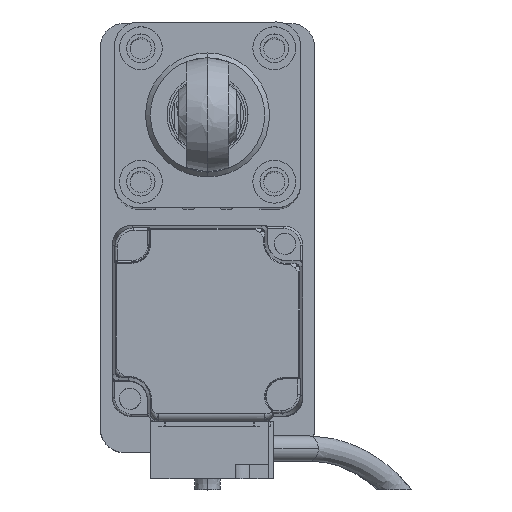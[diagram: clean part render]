
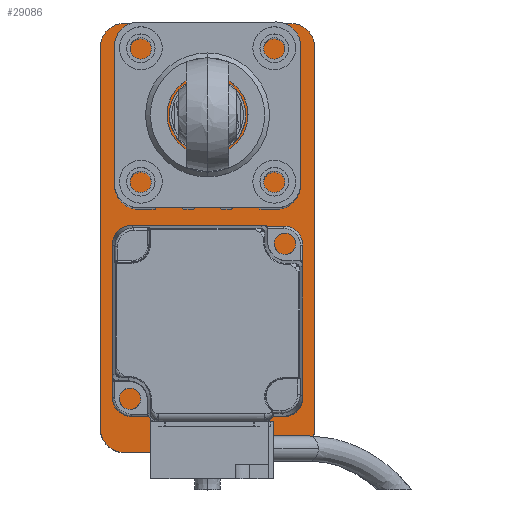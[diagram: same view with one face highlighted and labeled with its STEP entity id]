
A CAD part, top view. The second image highlights one B-rep face of the part: STEP entity #29086.
In plain terms, the highlighted planar face has unit normal (0, 0, 1).
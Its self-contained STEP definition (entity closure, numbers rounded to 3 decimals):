
#998 = DIRECTION ( 'NONE',  ( -1., 0., 0. ) ) ;
#2593 = ORIENTED_EDGE ( 'NONE', *, *, #11622, .T. ) ;
#3004 = CARTESIAN_POINT ( 'NONE',  ( -22.5, -40., 10. ) ) ;
#4297 = ORIENTED_EDGE ( 'NONE', *, *, #17230, .T. ) ;
#5124 = CIRCLE ( 'NONE', #12984, 5. ) ;
#5205 = PLANE ( 'NONE',  #9844 ) ;
#5716 = VERTEX_POINT ( 'NONE', #19718 ) ;
#6060 = CARTESIAN_POINT ( 'NONE',  ( 22.5, -40., 10. ) ) ;
#6439 = FACE_OUTER_BOUND ( 'NONE', #24535, .T. ) ;
#6545 = CARTESIAN_POINT ( 'NONE',  ( 17.5, -40., 10. ) ) ;
#6882 = DIRECTION ( 'NONE',  ( 0., -1., 0. ) ) ;
#7036 = CARTESIAN_POINT ( 'NONE',  ( 17.5, 45., 10. ) ) ;
#7211 = CARTESIAN_POINT ( 'NONE',  ( -22.5, -45., 10. ) ) ;
#7350 = CARTESIAN_POINT ( 'NONE',  ( 17.5, 40., 10. ) ) ;
#7512 = DIRECTION ( 'NONE',  ( 0., 0., 1. ) ) ;
#7953 = EDGE_CURVE ( 'NONE', #18848, #20233, #5124, .T. ) ;
#7957 = DIRECTION ( 'NONE',  ( 0., 0., 1. ) ) ;
#7994 = ORIENTED_EDGE ( 'NONE', *, *, #7953, .T. ) ;
#8983 = ORIENTED_EDGE ( 'NONE', *, *, #9953, .T. ) ;
#9402 = VERTEX_POINT ( 'NONE', #17033 ) ;
#9512 = AXIS2_PLACEMENT_3D ( 'NONE', #7350, #27859, #12729 ) ;
#9844 = AXIS2_PLACEMENT_3D ( 'NONE', #25284, #7957, #12487 ) ;
#9872 = DIRECTION ( 'NONE',  ( 1., 0., 0. ) ) ;
#9953 = EDGE_CURVE ( 'NONE', #12474, #9402, #23245, .T. ) ;
#10044 = DIRECTION ( 'NONE',  ( 1., 0., 0. ) ) ;
#10083 = DIRECTION ( 'NONE',  ( 0., 0., 1. ) ) ;
#10592 = EDGE_CURVE ( 'NONE', #20233, #12324, #10954, .T. ) ;
#10766 = EDGE_CURVE ( 'NONE', #12324, #14726, #12134, .T. ) ;
#10954 = LINE ( 'NONE', #27956, #29509 ) ;
#11401 = DIRECTION ( 'NONE',  ( 1., 0., 0. ) ) ;
#11622 = EDGE_CURVE ( 'NONE', #26022, #18848, #13324, .T. ) ;
#12109 = CARTESIAN_POINT ( 'NONE',  ( -17.5, -45., 10. ) ) ;
#12134 = CIRCLE ( 'NONE', #26391, 5. ) ;
#12324 = VERTEX_POINT ( 'NONE', #23053 ) ;
#12474 = VERTEX_POINT ( 'NONE', #7036 ) ;
#12487 = DIRECTION ( 'NONE',  ( 1., 0., 0. ) ) ;
#12583 = VECTOR ( 'NONE', #998, 1000. ) ;
#12729 = DIRECTION ( 'NONE',  ( 1., 0., 0. ) ) ;
#12984 = AXIS2_PLACEMENT_3D ( 'NONE', #17775, #7512, #10044 ) ;
#13239 = CIRCLE ( 'NONE', #9512, 5. ) ;
#13324 = LINE ( 'NONE', #7211, #28718 ) ;
#13380 = DIRECTION ( 'NONE',  ( 1., 0., 0. ) ) ;
#13396 = DIRECTION ( 'NONE',  ( 0., 1., 0. ) ) ;
#14035 = EDGE_CURVE ( 'NONE', #14726, #5716, #14905, .T. ) ;
#14726 = VERTEX_POINT ( 'NONE', #6060 ) ;
#14905 = LINE ( 'NONE', #21027, #20850 ) ;
#15130 = CIRCLE ( 'NONE', #23940, 5. ) ;
#16221 = ORIENTED_EDGE ( 'NONE', *, *, #14035, .T. ) ;
#17033 = CARTESIAN_POINT ( 'NONE',  ( -17.5, 45., 10. ) ) ;
#17230 = EDGE_CURVE ( 'NONE', #9402, #26022, #15130, .T. ) ;
#17775 = CARTESIAN_POINT ( 'NONE',  ( -17.5, -40., 10. ) ) ;
#18848 = VERTEX_POINT ( 'NONE', #3004 ) ;
#19023 = DIRECTION ( 'NONE',  ( 0., 0., 1. ) ) ;
#19718 = CARTESIAN_POINT ( 'NONE',  ( 22.5, 40., 10. ) ) ;
#20233 = VERTEX_POINT ( 'NONE', #12109 ) ;
#20726 = CARTESIAN_POINT ( 'NONE',  ( 22.5, 45., 10. ) ) ;
#20850 = VECTOR ( 'NONE', #13396, 1000. ) ;
#21027 = CARTESIAN_POINT ( 'NONE',  ( 22.5, -45., 10. ) ) ;
#21711 = ORIENTED_EDGE ( 'NONE', *, *, #10592, .T. ) ;
#22786 = CARTESIAN_POINT ( 'NONE',  ( -17.5, 40., 10. ) ) ;
#23053 = CARTESIAN_POINT ( 'NONE',  ( 17.5, -45., 10. ) ) ;
#23245 = LINE ( 'NONE', #20726, #12583 ) ;
#23940 = AXIS2_PLACEMENT_3D ( 'NONE', #22786, #10083, #9872 ) ;
#24535 = EDGE_LOOP ( 'NONE', ( #16221, #28995, #8983, #4297, #2593, #7994, #21711, #29020 ) ) ;
#25284 = CARTESIAN_POINT ( 'NONE',  ( 0., 0., 10. ) ) ;
#25334 = CARTESIAN_POINT ( 'NONE',  ( -22.5, 40., 10. ) ) ;
#26022 = VERTEX_POINT ( 'NONE', #25334 ) ;
#26391 = AXIS2_PLACEMENT_3D ( 'NONE', #6545, #19023, #11401 ) ;
#27859 = DIRECTION ( 'NONE',  ( 0., 0., 1. ) ) ;
#27956 = CARTESIAN_POINT ( 'NONE',  ( 22.5, -45., 10. ) ) ;
#28718 = VECTOR ( 'NONE', #6882, 1000. ) ;
#28995 = ORIENTED_EDGE ( 'NONE', *, *, #32527, .T. ) ;
#29020 = ORIENTED_EDGE ( 'NONE', *, *, #10766, .T. ) ;
#29086 = ADVANCED_FACE ( 'NONE', ( #6439 ), #5205, .T. ) ;
#29509 = VECTOR ( 'NONE', #13380, 1000. ) ;
#32527 = EDGE_CURVE ( 'NONE', #5716, #12474, #13239, .T. ) ;
